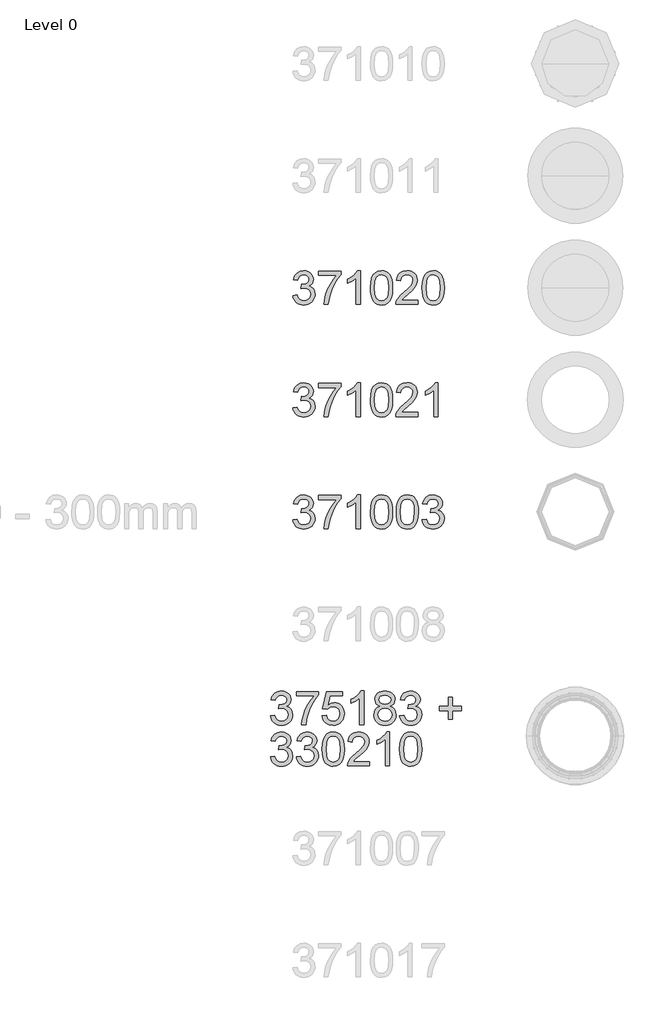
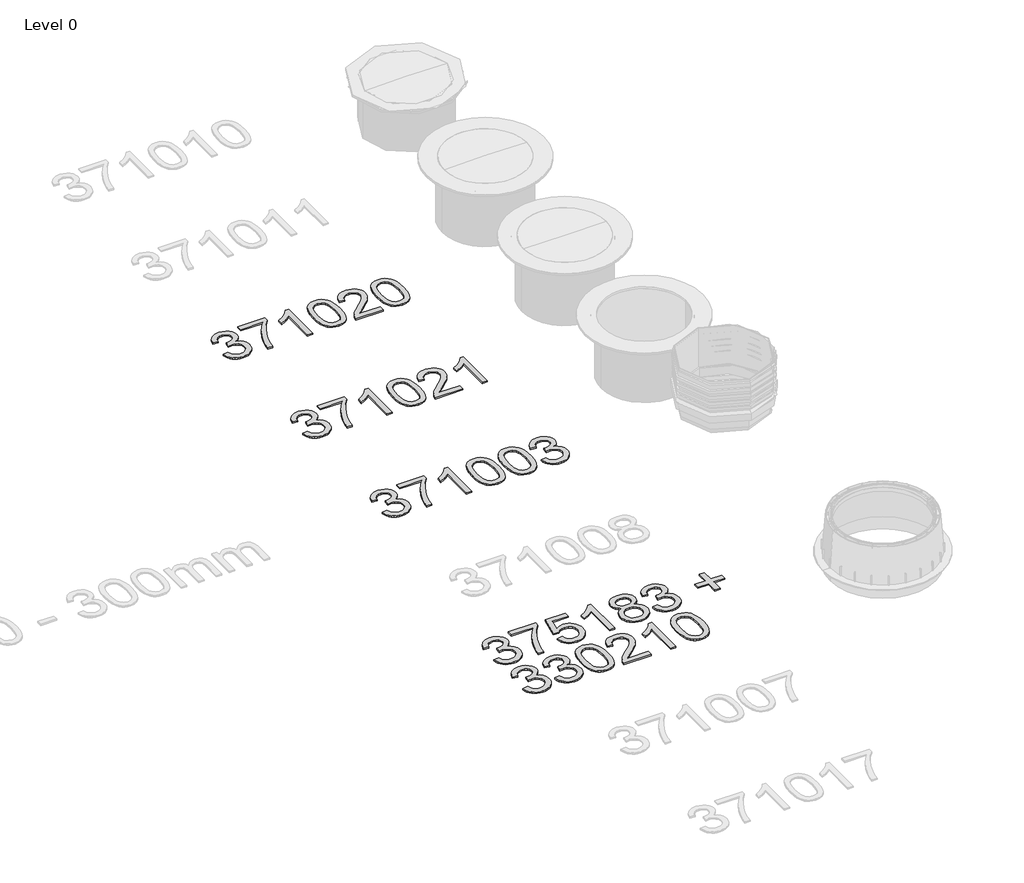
# One storey, part 10 of 20: 4 proxies.
"""IFC4 building model written with IfcOpenShell, lengths in millimetres."""

from ifc_helpers import new_model, si_unit, origin, origin_with_axes, place, context, project, spatial, polyline, outline, extrude, element, save

model = new_model("IFC4")

# Units and contexts
model_context = context("Model", 3, world=origin())
ifc_project = project(units=[si_unit("LENGTHUNIT", "METRE", prefix="MILLI")], contexts=[model_context])

# Site, building, storey
site = spatial("IfcSite", under=ifc_project)
building = spatial("IfcBuilding", under=site)
storey = spatial("IfcBuildingStorey", under=building, Name="Level 0", Elevation=0.0)

# Proxies
placement = place(None, origin())
element("IfcBuildingElementProxy", 1, Name="300mm Arial", ObjectType="300mm Arial", at=placement, inside=storey, context=model_context, shape_type="SweptSolid", body=[
    extrude(outline(polyline([(-6292.0538732, -11120.650521), (-6254.3827568, -11115.9416315), (-6245.9490621, -11139.6148379), (-6233.5974241, -11155.5993106), (-6216.7208376, -11164.7043899), (-6194.7122972, -11167.7394164), (-6168.8869812, -11163.5639558), (-6148.947777, -11151.0375738), (-6136.2006659, -11132.3491685), (-6131.9516289, -11109.6876376), (-6136.1638777, -11088.1757379), (-6148.8006242, -11070.7289343), (-6167.930488, -11059.1682426), (-6191.6220885, -11055.3146787), (-6218.0360157, -11059.434957), (-6213.842161, -11021.7638407), (-6207.8088963, -11022.2052991), (-6185.2393359, -11019.5013664), (-6165.0610084, -11011.3895685), (-6150.8239752, -10997.66757), (-6146.0782975, -10978.1330361), (-6149.5179941, -10961.8634549), (-6159.8370841, -10948.6656883), (-6175.5824335, -10939.9192938), (-6195.3009084, -10937.003829), (-6215.0561716, -10939.946885), (-6231.2061912, -10948.7760529), (-6242.9968091, -10963.4913327), (-6249.6738673, -10984.0927244), (-6287.3449836, -10979.3838349), (-6276.2533415, -10945.5570854), (-6256.5164724, -10920.3019864), (-6229.513934, -10904.5750312), (-6196.6252836, -10899.3327127), (-6172.9428802, -10901.9170837), (-6151.1918572, -10909.6701968), (-6132.8529397, -10921.9022731), (-6119.4068528, -10937.923534), (-6111.1570991, -10956.3820131), (-6108.4071812, -10975.9257441), (-6111.0191433, -10994.1359029), (-6118.8550298, -11010.6538045), (-6131.8044761, -11024.7252908), (-6149.7571174, -11035.5962037), (-6126.1758815, -11045.1243474), (-6108.7014868, -11061.3479434), (-6097.8857561, -11083.3840749), (-6094.2805125, -11110.3498252), (-6096.0831343, -11129.4612948), (-6101.4909997, -11147.0644483), (-6110.5041085, -11163.1592856), (-6123.122461, -11177.7458067), (-6138.4953298, -11189.8491243), (-6155.771988, -11198.4943512), (-6174.9524356, -11203.6814873), (-6196.0366724, -11205.4105327), (-6215.0929598, -11203.9344062), (-6232.4569899, -11199.5060267), (-6248.1287629, -11192.1253942), (-6262.1082787, -11181.7925086), (-6273.8299188, -11169.1143754), (-6282.7280646, -11154.6979997), (-6288.802716, -11138.5433816), (-6292.0538732, -11120.650521)])), origin_with_axes(), (0.0, 0.0, 1.0), 10.0),
    extrude(outline(polyline([(-6061.3182858, -10941.7127186), (-6061.3182858, -10904.0416023), (-5863.5449252, -10904.0416023), (-5863.5449252, -10934.5022315), (-5891.7338831, -10970.1775879), (-5919.6469294, -11015.546635), (-5944.267432, -11066.4707002), (-5962.5787583, -11118.811111), (-5971.555079, -11157.9721494), (-5976.5582741, -11200.7016432), (-6014.2293904, -11200.7016432), (-6010.1550973, -11161.8716986), (-5999.2565932, -11115.7209023), (-5981.8281837, -11066.801794), (-5958.1641743, -11019.6669133), (-5930.5362365, -10977.0569813), (-5901.2160415, -10941.7127186), (-6061.3182858, -10941.7127186)])), origin_with_axes(), (0.0, 0.0, 1.0), 10.0),
    extrude(outline(polyline([(-5689.3160123, -11200.7016432), (-5726.9871286, -11200.7016432), (-5726.9871286, -10965.8457775), (-5762.6716821, -10991.2664233), (-5802.3293612, -11010.2859225), (-5802.3293612, -10974.6749453), (-5772.7424517, -10958.580108), (-5747.1102737, -10939.4318502), (-5726.9043551, -10919.0695818), (-5713.5962239, -10899.3327127), (-5689.3160123, -10899.3327127), (-5689.3160123, -11200.7016432)])), origin_with_axes(), (0.0, 0.0, 1.0), 10.0),
    extrude(outline(polyline([(-5599.847111, -11052.4451991), (-5597.078799, -11004.2066725), (-5588.773863, -10965.7354129), (-5575.0150764, -10936.442809), (-5555.8852126, -10915.7402497), (-5531.246316, -10903.434597), (-5500.9604307, -10899.3327127), (-5477.7470768, -10901.7607339), (-5456.9617441, -10909.0447974), (-5439.5793198, -10920.8997947), (-5426.5746913, -10937.0406172), (-5416.752242, -10957.3293093), (-5408.9163555, -10981.627915), (-5403.7844017, -11012.4840174), (-5402.0737504, -11052.4451991), (-5404.8144713, -11100.4078142), (-5413.0366339, -11138.7871034), (-5426.7126471, -11168.1072984), (-5445.8149197, -11188.8926311), (-5470.5089986, -11201.2810573), (-5500.9604307, -11205.4105327), (-5521.7089753, -11203.617108), (-5540.103075, -11198.2368338), (-5556.14273, -11189.2697102), (-5569.8279402, -11176.7157371), (-5582.9613275, -11154.0220165), (-5592.3423183, -11125.7456867), (-5597.9709129, -11091.8867475), (-5599.847111, -11052.4451991)]), holes=[polyline([(-5562.1759947, -11052.3716227), (-5557.7614108, -11111.6282151), (-5552.2431809, -11131.8962138), (-5544.517659, -11145.9240141), (-5524.799184, -11162.2855658), (-5500.9604307, -11167.7394164), (-5477.1216774, -11162.2671717), (-5457.4032025, -11145.8504377), (-5449.6776806, -11131.7996447), (-5444.1594507, -11111.5362446), (-5439.7448667, -11052.3716227), (-5444.0122979, -10994.4486026), (-5449.3465868, -10974.2472825), (-5456.8145913, -10959.8860891), (-5476.496278, -10942.7243941), (-5501.4018891, -10937.003829), (-5524.983125, -10942.0438124), (-5543.9290478, -10957.1637624), (-5551.9120871, -10972.7987472), (-5557.614258, -10993.8783855), (-5562.1759947, -11052.3716227)])]), origin_with_axes(), (0.0, 0.0, 1.0), 10.0),
    extrude(outline(polyline([(-5176.0470526, -11163.0305269), (-5176.0470526, -11200.7016432), (-5373.8204132, -11200.7016432), (-5369.7737112, -11174.7291743), (-5360.4846909, -11154.4312852), (-5346.8914511, -11134.7404014), (-5327.2281585, -11114.1298127), (-5299.7289794, -11091.0728086), (-5259.0780189, -11054.9651908), (-5234.6874426, -11028.3121402), (-5222.4921545, -11006.6806789), (-5218.4270584, -10985.6378288), (-5222.2622282, -10966.7746795), (-5233.7677376, -10951.0937094), (-5251.4536645, -10940.5262991), (-5273.8300869, -10937.003829), (-5297.3285493, -10940.4435257), (-5315.5846934, -10950.7626156), (-5327.3661143, -10967.1517585), (-5331.4404073, -10988.801614), (-5369.1115237, -10984.0927244), (-5359.9788531, -10947.6540128), (-5351.4324945, -10933.1180755), (-5340.232787, -10921.0377504), (-5326.6372481, -10911.5417964), (-5310.903395, -10904.7589722), (-5273.0207465, -10899.3327127), (-5252.8309228, -10900.8410289), (-5234.8621866, -10905.3659774), (-5219.1145379, -10912.9075583), (-5205.5879768, -10923.4657716), (-5194.7239616, -10936.258868), (-5186.9639508, -10950.5050983), (-5182.3079443, -10966.2044624), (-5180.7559421, -10983.3569604), (-5182.4298052, -11001.3739811), (-5187.4513944, -11019.0783022), (-5196.3633358, -11037.0861258), (-5209.7082551, -11056.0136545), (-5230.9810315, -11078.610806), (-5263.6765438, -11107.6274984), (-5307.0130429, -11143.8638749), (-5324.009191, -11163.0305269), (-5176.0470526, -11163.0305269)])), origin_with_axes(), (0.0, 0.0, 1.0), 10.0),
    extrude(outline(polyline([(-5138.3759363, -11052.4451991), (-5135.6076243, -11004.2066725), (-5127.3026882, -10965.7354129), (-5113.5439016, -10936.442809), (-5094.4140379, -10915.7402497), (-5069.7751412, -10903.434597), (-5039.489256, -10899.3327127), (-5016.2759021, -10901.7607339), (-4995.4905694, -10909.0447974), (-4978.1081451, -10920.8997947), (-4965.1035166, -10937.0406172), (-4955.2810673, -10957.3293093), (-4947.4451808, -10981.627915), (-4942.313227, -11012.4840174), (-4940.6025757, -11052.4451991), (-4943.3432965, -11100.4078142), (-4951.5654591, -11138.7871034), (-4965.2414723, -11168.1072984), (-4984.3437449, -11188.8926311), (-5009.0378238, -11201.2810573), (-5039.489256, -11205.4105327), (-5060.2378005, -11203.617108), (-5078.6319003, -11198.2368338), (-5094.6715553, -11189.2697102), (-5108.3567655, -11176.7157371), (-5121.4901527, -11154.0220165), (-5130.8711436, -11125.7456867), (-5136.4997381, -11091.8867475), (-5138.3759363, -11052.4451991)]), holes=[polyline([(-5100.70482, -11052.3716227), (-5096.290236, -11111.6282151), (-5090.7720061, -11131.8962138), (-5083.0464842, -11145.9240141), (-5063.3280093, -11162.2855658), (-5039.489256, -11167.7394164), (-5015.6505027, -11162.2671717), (-4995.9320277, -11145.8504377), (-4988.2065058, -11131.7996447), (-4982.6882759, -11111.5362446), (-4978.273692, -11052.3716227), (-4982.5411231, -10994.4486026), (-4987.8754121, -10974.2472825), (-4995.3434166, -10959.8860891), (-5015.0251033, -10942.7243941), (-5039.9307144, -10937.003829), (-5063.5119503, -10942.0438124), (-5082.457873, -10957.1637624), (-5090.4409123, -10972.7987472), (-5096.1430832, -10993.8783855), (-5100.70482, -11052.3716227)])]), origin_with_axes(), (0.0, 0.0, 1.0), 10.0),
])
element("IfcBuildingElementProxy", 2, Name="300mm Arial", ObjectType="300mm Arial", at=placement, inside=storey, context=model_context, shape_type="SweptSolid", body=[
    extrude(outline(polyline([(-6292.0538732, -12120.650521), (-6254.3827568, -12115.9416315), (-6245.9490621, -12139.6148379), (-6233.5974241, -12155.5993106), (-6216.7208376, -12164.7043899), (-6194.7122972, -12167.7394164), (-6168.8869812, -12163.5639558), (-6148.947777, -12151.0375738), (-6136.2006659, -12132.3491685), (-6131.9516289, -12109.6876376), (-6136.1638777, -12088.1757379), (-6148.8006242, -12070.7289343), (-6167.930488, -12059.1682426), (-6191.6220885, -12055.3146787), (-6218.0360157, -12059.434957), (-6213.842161, -12021.7638407), (-6207.8088963, -12022.2052991), (-6185.2393359, -12019.5013664), (-6165.0610084, -12011.3895685), (-6150.8239752, -11997.66757), (-6146.0782975, -11978.1330361), (-6149.5179941, -11961.8634549), (-6159.8370841, -11948.6656883), (-6175.5824335, -11939.9192938), (-6195.3009084, -11937.003829), (-6215.0561716, -11939.946885), (-6231.2061912, -11948.7760529), (-6242.9968091, -11963.4913327), (-6249.6738673, -11984.0927244), (-6287.3449836, -11979.3838349), (-6276.2533415, -11945.5570854), (-6256.5164724, -11920.3019864), (-6229.513934, -11904.5750312), (-6196.6252836, -11899.3327127), (-6172.9428802, -11901.9170837), (-6151.1918572, -11909.6701968), (-6132.8529397, -11921.9022731), (-6119.4068528, -11937.923534), (-6111.1570991, -11956.3820131), (-6108.4071812, -11975.9257441), (-6111.0191433, -11994.1359029), (-6118.8550298, -12010.6538045), (-6131.8044761, -12024.7252908), (-6149.7571174, -12035.5962037), (-6126.1758815, -12045.1243474), (-6108.7014868, -12061.3479434), (-6097.8857561, -12083.3840749), (-6094.2805125, -12110.3498252), (-6096.0831343, -12129.4612948), (-6101.4909997, -12147.0644483), (-6110.5041085, -12163.1592856), (-6123.122461, -12177.7458067), (-6138.4953298, -12189.8491243), (-6155.771988, -12198.4943512), (-6174.9524356, -12203.6814873), (-6196.0366724, -12205.4105327), (-6215.0929598, -12203.9344062), (-6232.4569899, -12199.5060267), (-6248.1287629, -12192.1253942), (-6262.1082787, -12181.7925086), (-6273.8299188, -12169.1143754), (-6282.7280646, -12154.6979997), (-6288.802716, -12138.5433816), (-6292.0538732, -12120.650521)])), origin_with_axes(), (0.0, 0.0, 1.0), 10.0),
    extrude(outline(polyline([(-6061.3182858, -11941.7127186), (-6061.3182858, -11904.0416023), (-5863.5449252, -11904.0416023), (-5863.5449252, -11934.5022315), (-5891.7338831, -11970.1775879), (-5919.6469294, -12015.546635), (-5944.267432, -12066.4707002), (-5962.5787583, -12118.811111), (-5971.555079, -12157.9721494), (-5976.5582741, -12200.7016432), (-6014.2293904, -12200.7016432), (-6010.1550973, -12161.8716986), (-5999.2565932, -12115.7209023), (-5981.8281837, -12066.801794), (-5958.1641743, -12019.6669133), (-5930.5362365, -11977.0569813), (-5901.2160415, -11941.7127186), (-6061.3182858, -11941.7127186)])), origin_with_axes(), (0.0, 0.0, 1.0), 10.0),
    extrude(outline(polyline([(-5689.3160123, -12200.7016432), (-5726.9871286, -12200.7016432), (-5726.9871286, -11965.8457775), (-5762.6716821, -11991.2664233), (-5802.3293612, -12010.2859225), (-5802.3293612, -11974.6749453), (-5772.7424517, -11958.580108), (-5747.1102737, -11939.4318502), (-5726.9043551, -11919.0695818), (-5713.5962239, -11899.3327127), (-5689.3160123, -11899.3327127), (-5689.3160123, -12200.7016432)])), origin_with_axes(), (0.0, 0.0, 1.0), 10.0),
    extrude(outline(polyline([(-5599.847111, -12052.4451991), (-5597.078799, -12004.2066725), (-5588.773863, -11965.7354129), (-5575.0150764, -11936.442809), (-5555.8852126, -11915.7402497), (-5531.246316, -11903.434597), (-5500.9604307, -11899.3327127), (-5477.7470768, -11901.7607339), (-5456.9617441, -11909.0447974), (-5439.5793198, -11920.8997947), (-5426.5746913, -11937.0406172), (-5416.752242, -11957.3293093), (-5408.9163555, -11981.627915), (-5403.7844017, -12012.4840174), (-5402.0737504, -12052.4451991), (-5404.8144713, -12100.4078142), (-5413.0366339, -12138.7871034), (-5426.7126471, -12168.1072984), (-5445.8149197, -12188.8926311), (-5470.5089986, -12201.2810573), (-5500.9604307, -12205.4105327), (-5521.7089753, -12203.617108), (-5540.103075, -12198.2368338), (-5556.14273, -12189.2697102), (-5569.8279402, -12176.7157371), (-5582.9613275, -12154.0220165), (-5592.3423183, -12125.7456867), (-5597.9709129, -12091.8867475), (-5599.847111, -12052.4451991)]), holes=[polyline([(-5562.1759947, -12052.3716227), (-5557.7614108, -12111.6282151), (-5552.2431809, -12131.8962138), (-5544.517659, -12145.9240141), (-5524.799184, -12162.2855658), (-5500.9604307, -12167.7394164), (-5477.1216774, -12162.2671717), (-5457.4032025, -12145.8504377), (-5449.6776806, -12131.7996447), (-5444.1594507, -12111.5362446), (-5439.7448667, -12052.3716227), (-5444.0122979, -11994.4486026), (-5449.3465868, -11974.2472825), (-5456.8145913, -11959.8860891), (-5476.496278, -11942.7243941), (-5501.4018891, -11937.003829), (-5524.983125, -11942.0438124), (-5543.9290478, -11957.1637624), (-5551.9120871, -11972.7987472), (-5557.614258, -11993.8783855), (-5562.1759947, -12052.3716227)])]), origin_with_axes(), (0.0, 0.0, 1.0), 10.0),
    extrude(outline(polyline([(-5176.0470526, -12163.0305269), (-5176.0470526, -12200.7016432), (-5373.8204132, -12200.7016432), (-5369.7737112, -12174.7291743), (-5360.4846909, -12154.4312852), (-5346.8914511, -12134.7404014), (-5327.2281585, -12114.1298127), (-5299.7289794, -12091.0728086), (-5259.0780189, -12054.9651908), (-5234.6874426, -12028.3121402), (-5222.4921545, -12006.6806789), (-5218.4270584, -11985.6378288), (-5222.2622282, -11966.7746795), (-5233.7677376, -11951.0937094), (-5251.4536645, -11940.5262991), (-5273.8300869, -11937.003829), (-5297.3285493, -11940.4435257), (-5315.5846934, -11950.7626156), (-5327.3661143, -11967.1517585), (-5331.4404073, -11988.801614), (-5369.1115237, -11984.0927244), (-5359.9788531, -11947.6540128), (-5351.4324945, -11933.1180755), (-5340.232787, -11921.0377504), (-5326.6372481, -11911.5417964), (-5310.903395, -11904.7589722), (-5273.0207465, -11899.3327127), (-5252.8309228, -11900.8410289), (-5234.8621866, -11905.3659774), (-5219.1145379, -11912.9075583), (-5205.5879768, -11923.4657716), (-5194.7239616, -11936.258868), (-5186.9639508, -11950.5050983), (-5182.3079443, -11966.2044624), (-5180.7559421, -11983.3569604), (-5182.4298052, -12001.3739811), (-5187.4513944, -12019.0783022), (-5196.3633358, -12037.0861258), (-5209.7082551, -12056.0136545), (-5230.9810315, -12078.610806), (-5263.6765438, -12107.6274984), (-5307.0130429, -12143.8638749), (-5324.009191, -12163.0305269), (-5176.0470526, -12163.0305269)])), origin_with_axes(), (0.0, 0.0, 1.0), 10.0),
    extrude(outline(polyline([(-4997.1092501, -12200.7016432), (-5034.7803664, -12200.7016432), (-5034.7803664, -11965.8457775), (-5070.46492, -11991.2664233), (-5110.1225991, -12010.2859225), (-5110.1225991, -11974.6749453), (-5080.5356896, -11958.580108), (-5054.9035116, -11939.4318502), (-5034.697593, -11919.0695818), (-5021.3894618, -11899.3327127), (-4997.1092501, -11899.3327127), (-4997.1092501, -12200.7016432)])), origin_with_axes(), (0.0, 0.0, 1.0), 10.0),
])
element("IfcBuildingElementProxy", 3, Name="300mm Arial", ObjectType="300mm Arial", at=placement, inside=storey, context=model_context, shape_type="SweptSolid", body=[
    extrude(outline(polyline([(-6292.0538732, -13120.650521), (-6254.3827568, -13115.9416315), (-6245.9490621, -13139.6148379), (-6233.5974241, -13155.5993106), (-6216.7208376, -13164.7043899), (-6194.7122972, -13167.7394164), (-6168.8869812, -13163.5639558), (-6148.947777, -13151.0375738), (-6136.2006659, -13132.3491685), (-6131.9516289, -13109.6876376), (-6136.1638777, -13088.1757379), (-6148.8006242, -13070.7289343), (-6167.930488, -13059.1682426), (-6191.6220885, -13055.3146787), (-6218.0360157, -13059.434957), (-6213.842161, -13021.7638407), (-6207.8088963, -13022.2052991), (-6185.2393359, -13019.5013664), (-6165.0610084, -13011.3895685), (-6150.8239752, -12997.66757), (-6146.0782975, -12978.1330361), (-6149.5179941, -12961.8634549), (-6159.8370841, -12948.6656883), (-6175.5824335, -12939.9192938), (-6195.3009084, -12937.003829), (-6215.0561716, -12939.946885), (-6231.2061912, -12948.7760529), (-6242.9968091, -12963.4913327), (-6249.6738673, -12984.0927244), (-6287.3449836, -12979.3838349), (-6276.2533415, -12945.5570854), (-6256.5164724, -12920.3019864), (-6229.513934, -12904.5750312), (-6196.6252836, -12899.3327127), (-6172.9428802, -12901.9170837), (-6151.1918572, -12909.6701968), (-6132.8529397, -12921.9022731), (-6119.4068528, -12937.923534), (-6111.1570991, -12956.3820131), (-6108.4071812, -12975.9257441), (-6111.0191433, -12994.1359029), (-6118.8550298, -13010.6538045), (-6131.8044761, -13024.7252908), (-6149.7571174, -13035.5962037), (-6126.1758815, -13045.1243474), (-6108.7014868, -13061.3479434), (-6097.8857561, -13083.3840749), (-6094.2805125, -13110.3498252), (-6096.0831343, -13129.4612948), (-6101.4909997, -13147.0644483), (-6110.5041085, -13163.1592856), (-6123.122461, -13177.7458067), (-6138.4953298, -13189.8491243), (-6155.771988, -13198.4943512), (-6174.9524356, -13203.6814873), (-6196.0366724, -13205.4105327), (-6215.0929598, -13203.9344062), (-6232.4569899, -13199.5060267), (-6248.1287629, -13192.1253942), (-6262.1082787, -13181.7925086), (-6273.8299188, -13169.1143754), (-6282.7280646, -13154.6979997), (-6288.802716, -13138.5433816), (-6292.0538732, -13120.650521)])), origin_with_axes(), (0.0, 0.0, 1.0), 10.0),
    extrude(outline(polyline([(-6061.3182858, -12941.7127186), (-6061.3182858, -12904.0416023), (-5863.5449252, -12904.0416023), (-5863.5449252, -12934.5022315), (-5891.7338831, -12970.1775879), (-5919.6469294, -13015.546635), (-5944.267432, -13066.4707002), (-5962.5787583, -13118.811111), (-5971.555079, -13157.9721494), (-5976.5582741, -13200.7016432), (-6014.2293904, -13200.7016432), (-6010.1550973, -13161.8716986), (-5999.2565932, -13115.7209023), (-5981.8281837, -13066.801794), (-5958.1641743, -13019.6669133), (-5930.5362365, -12977.0569813), (-5901.2160415, -12941.7127186), (-6061.3182858, -12941.7127186)])), origin_with_axes(), (0.0, 0.0, 1.0), 10.0),
    extrude(outline(polyline([(-5689.3160123, -13200.7016432), (-5726.9871286, -13200.7016432), (-5726.9871286, -12965.8457775), (-5762.6716821, -12991.2664233), (-5802.3293612, -13010.2859225), (-5802.3293612, -12974.6749453), (-5772.7424517, -12958.580108), (-5747.1102737, -12939.4318502), (-5726.9043551, -12919.0695818), (-5713.5962239, -12899.3327127), (-5689.3160123, -12899.3327127), (-5689.3160123, -13200.7016432)])), origin_with_axes(), (0.0, 0.0, 1.0), 10.0),
    extrude(outline(polyline([(-5599.847111, -13052.4451991), (-5597.078799, -13004.2066725), (-5588.773863, -12965.7354129), (-5575.0150764, -12936.442809), (-5555.8852126, -12915.7402497), (-5531.246316, -12903.434597), (-5500.9604307, -12899.3327127), (-5477.7470768, -12901.7607339), (-5456.9617441, -12909.0447974), (-5439.5793198, -12920.8997947), (-5426.5746913, -12937.0406172), (-5416.752242, -12957.3293093), (-5408.9163555, -12981.627915), (-5403.7844017, -13012.4840174), (-5402.0737504, -13052.4451991), (-5404.8144713, -13100.4078142), (-5413.0366339, -13138.7871034), (-5426.7126471, -13168.1072984), (-5445.8149197, -13188.8926311), (-5470.5089986, -13201.2810573), (-5500.9604307, -13205.4105327), (-5521.7089753, -13203.617108), (-5540.103075, -13198.2368338), (-5556.14273, -13189.2697102), (-5569.8279402, -13176.7157371), (-5582.9613275, -13154.0220165), (-5592.3423183, -13125.7456867), (-5597.9709129, -13091.8867475), (-5599.847111, -13052.4451991)]), holes=[polyline([(-5562.1759947, -13052.3716227), (-5557.7614108, -13111.6282151), (-5552.2431809, -13131.8962138), (-5544.517659, -13145.9240141), (-5524.799184, -13162.2855658), (-5500.9604307, -13167.7394164), (-5477.1216774, -13162.2671717), (-5457.4032025, -13145.8504377), (-5449.6776806, -13131.7996447), (-5444.1594507, -13111.5362446), (-5439.7448667, -13052.3716227), (-5444.0122979, -12994.4486026), (-5449.3465868, -12974.2472825), (-5456.8145913, -12959.8860891), (-5476.496278, -12942.7243941), (-5501.4018891, -12937.003829), (-5524.983125, -12942.0438124), (-5543.9290478, -12957.1637624), (-5551.9120871, -12972.7987472), (-5557.614258, -12993.8783855), (-5562.1759947, -13052.3716227)])]), origin_with_axes(), (0.0, 0.0, 1.0), 10.0),
    extrude(outline(polyline([(-5369.1115237, -13052.4451991), (-5366.3432116, -13004.2066725), (-5358.0382756, -12965.7354129), (-5344.279489, -12936.442809), (-5325.1496252, -12915.7402497), (-5300.5107286, -12903.434597), (-5270.2248434, -12899.3327127), (-5247.0114895, -12901.7607339), (-5226.2261567, -12909.0447974), (-5208.8437325, -12920.8997947), (-5195.8391039, -12937.0406172), (-5186.0166547, -12957.3293093), (-5178.1807682, -12981.627915), (-5173.0488143, -13012.4840174), (-5171.338163, -13052.4451991), (-5174.0788839, -13100.4078142), (-5182.3010465, -13138.7871034), (-5195.9770597, -13168.1072984), (-5215.0793323, -13188.8926311), (-5239.7734112, -13201.2810573), (-5270.2248434, -13205.4105327), (-5290.9733879, -13203.617108), (-5309.3674876, -13198.2368338), (-5325.4071426, -13189.2697102), (-5339.0923528, -13176.7157371), (-5352.2257401, -13154.0220165), (-5361.606731, -13125.7456867), (-5367.2353255, -13091.8867475), (-5369.1115237, -13052.4451991)]), holes=[polyline([(-5331.4404073, -13052.3716227), (-5327.0258234, -13111.6282151), (-5321.5075935, -13131.8962138), (-5313.7820716, -13145.9240141), (-5294.0635966, -13162.2855658), (-5270.2248434, -13167.7394164), (-5246.3860901, -13162.2671717), (-5226.6676151, -13145.8504377), (-5218.9420932, -13131.7996447), (-5213.4238633, -13111.5362446), (-5209.0092794, -13052.3716227), (-5213.2767105, -12994.4486026), (-5218.6109994, -12974.2472825), (-5226.0790039, -12959.8860891), (-5245.7606907, -12942.7243941), (-5270.6663017, -12937.003829), (-5294.2475376, -12942.0438124), (-5313.1934604, -12957.1637624), (-5321.1764997, -12972.7987472), (-5326.8786706, -12993.8783855), (-5331.4404073, -13052.3716227)])]), origin_with_axes(), (0.0, 0.0, 1.0), 10.0),
    extrude(outline(polyline([(-5138.3759363, -13120.650521), (-5100.70482, -13115.9416315), (-5092.2711252, -13139.6148379), (-5079.9194872, -13155.5993106), (-5063.0429007, -13164.7043899), (-5041.0343604, -13167.7394164), (-5015.2090443, -13163.5639558), (-4995.2698402, -13151.0375738), (-4982.522729, -13132.3491685), (-4978.273692, -13109.6876376), (-4982.4859408, -13088.1757379), (-4995.1226874, -13070.7289343), (-5014.2525511, -13059.1682426), (-5037.9441516, -13055.3146787), (-5064.3580789, -13059.434957), (-5060.1642241, -13021.7638407), (-5054.1309594, -13022.2052991), (-5031.561399, -13019.5013664), (-5011.3830715, -13011.3895685), (-4997.1460383, -12997.66757), (-4992.4003606, -12978.1330361), (-4995.8400572, -12961.8634549), (-5006.1591472, -12948.6656883), (-5021.9044966, -12939.9192938), (-5041.6229715, -12937.003829), (-5061.3782347, -12939.946885), (-5077.5282543, -12948.7760529), (-5089.3188722, -12963.4913327), (-5095.9959304, -12984.0927244), (-5133.6670467, -12979.3838349), (-5122.5754046, -12945.5570854), (-5102.8385355, -12920.3019864), (-5075.8359971, -12904.5750312), (-5042.9473467, -12899.3327127), (-5019.2649433, -12901.9170837), (-4997.5139203, -12909.6701968), (-4979.1750029, -12921.9022731), (-4965.7289159, -12937.923534), (-4957.4791622, -12956.3820131), (-4954.7292443, -12975.9257441), (-4957.3412065, -12994.1359029), (-4965.177093, -13010.6538045), (-4978.1265392, -13024.7252908), (-4996.0791805, -13035.5962037), (-4972.4979447, -13045.1243474), (-4955.0235499, -13061.3479434), (-4944.2078192, -13083.3840749), (-4940.6025757, -13110.3498252), (-4942.4051975, -13129.4612948), (-4947.8130628, -13147.0644483), (-4956.8261717, -13163.1592856), (-4969.4445241, -13177.7458067), (-4984.817393, -13189.8491243), (-5002.0940512, -13198.4943512), (-5021.2744987, -13203.6814873), (-5042.3587355, -13205.4105327), (-5061.4150229, -13203.9344062), (-5078.7790531, -13199.5060267), (-5094.4508261, -13192.1253942), (-5108.4303419, -13181.7925086), (-5120.1519819, -13169.1143754), (-5129.0501277, -13154.6979997), (-5135.1247791, -13138.5433816), (-5138.3759363, -13120.650521)])), origin_with_axes(), (0.0, 0.0, 1.0), 10.0),
])
element("IfcBuildingElementProxy", 4, Name="300mm Arial", ObjectType="300mm Arial", at=placement, inside=storey, context=model_context, shape_type="SweptSolid", body=[
    extrude(outline(polyline([(-6492.0538732, -14870.650521), (-6454.3827568, -14865.9416315), (-6445.9490621, -14889.6148379), (-6433.5974241, -14905.5993106), (-6416.7208376, -14914.7043899), (-6394.7122972, -14917.7394164), (-6368.8869812, -14913.5639558), (-6348.947777, -14901.0375738), (-6336.2006659, -14882.3491685), (-6331.9516289, -14859.6876376), (-6336.1638777, -14838.1757379), (-6348.8006242, -14820.7289343), (-6367.930488, -14809.1682426), (-6391.6220885, -14805.3146787), (-6418.0360157, -14809.434957), (-6413.842161, -14771.7638407), (-6407.8088963, -14772.2052991), (-6385.2393359, -14769.5013664), (-6365.0610084, -14761.3895685), (-6350.8239752, -14747.66757), (-6346.0782975, -14728.1330361), (-6349.5179941, -14711.8634549), (-6359.8370841, -14698.6656883), (-6375.5824335, -14689.9192938), (-6395.3009084, -14687.003829), (-6415.0561716, -14689.946885), (-6431.2061912, -14698.7760529), (-6442.9968091, -14713.4913327), (-6449.6738673, -14734.0927244), (-6487.3449836, -14729.3838349), (-6476.2533415, -14695.5570854), (-6456.5164724, -14670.3019864), (-6429.513934, -14654.5750312), (-6396.6252836, -14649.3327127), (-6372.9428802, -14651.9170837), (-6351.1918572, -14659.6701968), (-6332.8529397, -14671.9022731), (-6319.4068528, -14687.923534), (-6311.1570991, -14706.3820131), (-6308.4071812, -14725.9257441), (-6311.0191433, -14744.1359029), (-6318.8550298, -14760.6538045), (-6331.8044761, -14774.7252908), (-6349.7571174, -14785.5962037), (-6326.1758815, -14795.1243474), (-6308.7014868, -14811.3479434), (-6297.8857561, -14833.3840749), (-6294.2805125, -14860.3498252), (-6296.0831343, -14879.4612948), (-6301.4909997, -14897.0644483), (-6310.5041085, -14913.1592856), (-6323.122461, -14927.7458067), (-6338.4953298, -14939.8491243), (-6355.771988, -14948.4943512), (-6374.9524356, -14953.6814873), (-6396.0366724, -14955.4105327), (-6415.0929598, -14953.9344062), (-6432.4569899, -14949.5060267), (-6448.1287629, -14942.1253942), (-6462.1082787, -14931.7925086), (-6473.8299188, -14919.1143754), (-6482.7280646, -14904.6979997), (-6488.802716, -14888.5433816), (-6492.0538732, -14870.650521)])), origin_with_axes(), (0.0, 0.0, 1.0), 10.0),
    extrude(outline(polyline([(-6261.3182858, -14691.7127186), (-6261.3182858, -14654.0416023), (-6063.5449252, -14654.0416023), (-6063.5449252, -14684.5022315), (-6091.7338831, -14720.1775879), (-6119.6469294, -14765.546635), (-6144.267432, -14816.4707002), (-6162.5787583, -14868.811111), (-6171.555079, -14907.9721494), (-6176.5582741, -14950.7016432), (-6214.2293904, -14950.7016432), (-6210.1550973, -14911.8716986), (-6199.2565932, -14865.7209023), (-6181.8281837, -14816.801794), (-6158.1641743, -14769.6669133), (-6130.5362365, -14727.0569813), (-6101.2160415, -14691.7127186), (-6261.3182858, -14691.7127186)])), origin_with_axes(), (0.0, 0.0, 1.0), 10.0),
    extrude(outline(polyline([(-6030.5826984, -14870.650521), (-5992.9115821, -14865.9416315), (-5985.9954006, -14888.5571771), (-5973.9288711, -14904.753182), (-5956.7671761, -14914.4928578), (-5934.5654977, -14917.7394164), (-5907.5629592, -14913.2236649), (-5887.3294495, -14899.6764104), (-5874.6927029, -14878.6611515), (-5870.4804541, -14851.7413865), (-5874.4259885, -14826.394317), (-5886.2625917, -14807.0069359), (-5906.0822342, -14794.7012831), (-5933.9768865, -14790.5993989), (-5952.2514246, -14792.2364738), (-5967.0494778, -14797.1476984), (-5988.2026926, -14814.1438466), (-6025.8738089, -14809.434957), (-5992.9115821, -14654.0416023), (-5846.9360064, -14654.0416023), (-5846.9360064, -14691.7127186), (-5962.4509529, -14691.7127186), (-5978.5641843, -14774.7068967), (-5951.6536163, -14758.3729361), (-5923.4554614, -14752.9282826), (-5905.1096462, -14754.6159412), (-5888.2583515, -14759.6789172), (-5872.9015775, -14768.1172104), (-5859.0393241, -14779.930821), (-5847.5637051, -14794.3977805), (-5839.3668344, -14810.7961204), (-5834.4487119, -14829.1258408), (-5832.8093378, -14849.3869417), (-5838.7138438, -14887.058058), (-5846.0944763, -14903.8518711), (-5856.4273619, -14919.2845208), (-5872.0807408, -14935.089651), (-5890.3460818, -14946.3790297), (-5911.2233851, -14953.152657), (-5934.7126505, -14955.4105327), (-5971.7123821, -14949.6071942), (-5987.3910529, -14942.3530211), (-6001.188927, -14932.1971788), (-6012.6691445, -14919.645505), (-6021.3948456, -14905.2038374), (-6030.5826984, -14870.650521)])), origin_with_axes(), (0.0, 0.0, 1.0), 10.0),
    extrude(outline(polyline([(-5658.5804249, -14950.7016432), (-5696.2515412, -14950.7016432), (-5696.2515412, -14715.8457775), (-5731.9360947, -14741.2664233), (-5771.5937738, -14760.2859225), (-5771.5937738, -14724.6749453), (-5742.0068643, -14708.580108), (-5716.3746863, -14689.4318502), (-5696.1687677, -14669.0695818), (-5682.8606366, -14649.3327127), (-5658.5804249, -14649.3327127), (-5658.5804249, -14950.7016432)])), origin_with_axes(), (0.0, 0.0, 1.0), 10.0),
    extrude(outline(polyline([(-5514.22353, -14784.7132869), (-5534.3926604, -14774.7804731), (-5548.5469201, -14761.3159921), (-5556.9070385, -14744.5957554), (-5559.6937446, -14724.8956745), (-5558.1762313, -14709.5320027), (-5553.6236917, -14695.4467208), (-5546.0361255, -14682.6398289), (-5535.4135329, -14671.1113268), (-5522.2663501, -14661.5831832), (-5507.1050134, -14654.7773663), (-5470.7398781, -14649.3327127), (-5434.1540137, -14654.906125), (-5418.8271301, -14661.8728902), (-5405.4776122, -14671.6263616), (-5394.6618815, -14683.3801914), (-5386.9363596, -14696.3480317), (-5382.3010465, -14710.5298826), (-5380.7559421, -14725.9257441), (-5383.50586, -14744.9912285), (-5391.7556138, -14761.4263567), (-5405.5971738, -14774.8080642), (-5425.1225107, -14784.7132869), (-5401.936748, -14796.6602547), (-5385.0601615, -14814.2542112), (-5374.7686627, -14836.6490276), (-5371.338163, -14862.9985755), (-5373.0396173, -14881.7881484), (-5378.14398, -14899.0142229), (-5386.6512511, -14914.6767988), (-5398.5614307, -14928.7758763), (-5413.2491193, -14940.4285385), (-5430.0889177, -14948.7518686), (-5449.0808257, -14953.7458667), (-5470.2248434, -14955.4105327), (-5491.368861, -14953.7389689), (-5510.360769, -14948.7242774), (-5527.2005674, -14940.3664584), (-5541.888256, -14928.6655117), (-5553.7984356, -14914.4675659), (-5562.3057067, -14898.6187497), (-5567.4100694, -14881.119063), (-5569.1115237, -14861.9685059), (-5565.5430683, -14834.5980855), (-5554.8377022, -14812.0837074), (-5537.5472485, -14795.1979238), (-5514.22353, -14784.7132869)]), holes=[polyline([(-5522.0226283, -14725.9993205), (-5518.6840992, -14742.4436457), (-5508.6685118, -14755.5770329), (-5492.2701719, -14764.1854716), (-5469.783385, -14767.0549512), (-5447.8208298, -14764.2038657), (-5431.6708103, -14755.6506093), (-5421.7379964, -14742.9586805), (-5418.4270584, -14727.6915777), (-5421.848361, -14711.8450608), (-5432.1122687, -14698.7392647), (-5448.4830174, -14689.9376879), (-5470.2248434, -14687.003829), (-5492.104625, -14689.8733086), (-5508.4477827, -14698.4817473), (-5518.6289169, -14711.1000997), (-5522.0226283, -14725.9993205)]), polyline([(-5531.4404073, -14860.6441308), (-5525.1496252, -14889.0078326), (-5516.440019, -14901.1755296), (-5502.8927645, -14910.2346237), (-5486.6691685, -14915.8632182), (-5469.9305378, -14917.7394164), (-5444.2891627, -14913.793882), (-5425.0489343, -14901.9572788), (-5413.0191931, -14884.0322286), (-5409.0092794, -14861.8213531), (-5413.1479518, -14839.2333986), (-5425.5639691, -14820.9128753), (-5445.2456559, -14808.7727694), (-5471.1813365, -14804.7260675), (-5496.4640267, -14808.7175871), (-5515.511117, -14820.6921461), (-5527.4580848, -14838.6631815), (-5531.4404073, -14860.6441308)])]), origin_with_axes(), (0.0, 0.0, 1.0), 10.0),
    extrude(outline(polyline([(-5338.3759363, -14870.650521), (-5300.70482, -14865.9416315), (-5292.2711252, -14889.6148379), (-5279.9194872, -14905.5993106), (-5263.0429007, -14914.7043899), (-5241.0343604, -14917.7394164), (-5215.2090443, -14913.5639558), (-5195.2698402, -14901.0375738), (-5182.522729, -14882.3491685), (-5178.273692, -14859.6876376), (-5182.4859408, -14838.1757379), (-5195.1226874, -14820.7289343), (-5214.2525511, -14809.1682426), (-5237.9441516, -14805.3146787), (-5264.3580789, -14809.434957), (-5260.1642241, -14771.7638407), (-5254.1309594, -14772.2052991), (-5231.561399, -14769.5013664), (-5211.3830715, -14761.3895685), (-5197.1460383, -14747.66757), (-5192.4003606, -14728.1330361), (-5195.8400572, -14711.8634549), (-5206.1591472, -14698.6656883), (-5221.9044966, -14689.9192938), (-5241.6229715, -14687.003829), (-5261.3782347, -14689.946885), (-5277.5282543, -14698.7760529), (-5289.3188722, -14713.4913327), (-5295.9959304, -14734.0927244), (-5333.6670467, -14729.3838349), (-5322.5754046, -14695.5570854), (-5302.8385355, -14670.3019864), (-5275.8359971, -14654.5750312), (-5242.9473467, -14649.3327127), (-5219.2649433, -14651.9170837), (-5197.5139203, -14659.6701968), (-5179.1750029, -14671.9022731), (-5165.7289159, -14687.923534), (-5157.4791622, -14706.3820131), (-5154.7292443, -14725.9257441), (-5157.3412065, -14744.1359029), (-5165.177093, -14760.6538045), (-5178.1265392, -14774.7252908), (-5196.0791805, -14785.5962037), (-5172.4979447, -14795.1243474), (-5155.0235499, -14811.3479434), (-5144.2078192, -14833.3840749), (-5140.6025757, -14860.3498252), (-5142.4051975, -14879.4612948), (-5147.8130628, -14897.0644483), (-5156.8261717, -14913.1592856), (-5169.4445241, -14927.7458067), (-5184.817393, -14939.8491243), (-5202.0940512, -14948.4943512), (-5221.2744987, -14953.6814873), (-5242.3587355, -14955.4105327), (-5261.4150229, -14953.9344062), (-5278.7790531, -14949.5060267), (-5294.4508261, -14942.1253942), (-5308.4303419, -14931.7925086), (-5320.1519819, -14919.1143754), (-5329.0501277, -14904.6979997), (-5335.1247791, -14888.5433816), (-5338.3759363, -14870.650521)])), origin_with_axes(), (0.0, 0.0, 1.0), 10.0),
    extrude(outline(polyline([(-4905.1580988, -14903.6127478), (-4905.1580988, -14823.5616256), (-4985.2092209, -14823.5616256), (-4985.2092209, -14785.8905093), (-4905.1580988, -14785.8905093), (-4905.1580988, -14705.8393872), (-4867.4869825, -14705.8393872), (-4867.4869825, -14785.8905093), (-4787.4358603, -14785.8905093), (-4787.4358603, -14823.5616256), (-4867.4869825, -14823.5616256), (-4867.4869825, -14903.6127478), (-4905.1580988, -14903.6127478)])), origin_with_axes(), (0.0, 0.0, 1.0), 10.0),
    extrude(outline(polyline([(-6492.0538732, -15236.5749746), (-6454.3827568, -15231.866085), (-6445.9490621, -15255.5392914), (-6433.5974241, -15271.5237641), (-6416.7208376, -15280.6288435), (-6394.7122972, -15283.6638699), (-6368.8869812, -15279.4884093), (-6348.947777, -15266.9620274), (-6336.2006659, -15248.273622), (-6331.9516289, -15225.6120911), (-6336.1638777, -15204.1001914), (-6348.8006242, -15186.6533878), (-6367.930488, -15175.0926961), (-6391.6220885, -15171.2391322), (-6418.0360157, -15175.3594106), (-6413.842161, -15137.6882943), (-6407.8088963, -15138.1297526), (-6385.2393359, -15135.42582), (-6365.0610084, -15127.314022), (-6350.8239752, -15113.5920236), (-6346.0782975, -15094.0574896), (-6349.5179941, -15077.7879084), (-6359.8370841, -15064.5901418), (-6375.5824335, -15055.8437474), (-6395.3009084, -15052.9282826), (-6415.0561716, -15055.8713385), (-6431.2061912, -15064.7005064), (-6442.9968091, -15079.4157862), (-6449.6738673, -15100.0171779), (-6487.3449836, -15095.3082884), (-6476.2533415, -15061.481539), (-6456.5164724, -15036.22644), (-6429.513934, -15020.4994847), (-6396.6252836, -15015.2571663), (-6372.9428802, -15017.8415373), (-6351.1918572, -15025.5946503), (-6332.8529397, -15037.8267267), (-6319.4068528, -15053.8479876), (-6311.1570991, -15072.3064667), (-6308.4071812, -15091.8501977), (-6311.0191433, -15110.0603564), (-6318.8550298, -15126.578258), (-6331.8044761, -15140.6497443), (-6349.7571174, -15151.5206573), (-6326.1758815, -15161.0488009), (-6308.7014868, -15177.2723969), (-6297.8857561, -15199.3085284), (-6294.2805125, -15226.2742787), (-6296.0831343, -15245.3857483), (-6301.4909997, -15262.9889018), (-6310.5041085, -15279.0837391), (-6323.122461, -15293.6702602), (-6338.4953298, -15305.7735779), (-6355.771988, -15314.4188047), (-6374.9524356, -15319.6059409), (-6396.0366724, -15321.3349862), (-6415.0929598, -15319.8588597), (-6432.4569899, -15315.4304802), (-6448.1287629, -15308.0498477), (-6462.1082787, -15297.7169622), (-6473.8299188, -15285.0388289), (-6482.7280646, -15270.6224532), (-6488.802716, -15254.4678351), (-6492.0538732, -15236.5749746)])), origin_with_axes(), (0.0, 0.0, 1.0), 10.0),
    extrude(outline(polyline([(-6261.3182858, -15236.5749746), (-6223.6471695, -15231.866085), (-6215.2134747, -15255.5392914), (-6202.8618367, -15271.5237641), (-6185.9852502, -15280.6288435), (-6163.9767099, -15283.6638699), (-6138.1513938, -15279.4884093), (-6118.2121897, -15266.9620274), (-6105.4650785, -15248.273622), (-6101.2160415, -15225.6120911), (-6105.4282903, -15204.1001914), (-6118.0650369, -15186.6533878), (-6137.1949006, -15175.0926961), (-6160.8865011, -15171.2391322), (-6187.3004284, -15175.3594106), (-6183.1065736, -15137.6882943), (-6177.0733089, -15138.1297526), (-6154.5037485, -15135.42582), (-6134.325421, -15127.314022), (-6120.0883878, -15113.5920236), (-6115.3427101, -15094.0574896), (-6118.7824067, -15077.7879084), (-6129.1014967, -15064.5901418), (-6144.8468461, -15055.8437474), (-6164.565321, -15052.9282826), (-6184.3205842, -15055.8713385), (-6200.4706038, -15064.7005064), (-6212.2612217, -15079.4157862), (-6218.9382799, -15100.0171779), (-6256.6093962, -15095.3082884), (-6245.5177541, -15061.481539), (-6225.780885, -15036.22644), (-6198.7783466, -15020.4994847), (-6165.8896962, -15015.2571663), (-6142.2072928, -15017.8415373), (-6120.4562698, -15025.5946503), (-6102.1173524, -15037.8267267), (-6088.6712654, -15053.8479876), (-6080.4215117, -15072.3064667), (-6077.6715938, -15091.8501977), (-6080.283556, -15110.0603564), (-6088.1194425, -15126.578258), (-6101.0688887, -15140.6497443), (-6119.02153, -15151.5206573), (-6095.4402942, -15161.0488009), (-6077.9658994, -15177.2723969), (-6067.1501687, -15199.3085284), (-6063.5449252, -15226.2742787), (-6065.3475469, -15245.3857483), (-6070.7554123, -15262.9889018), (-6079.7685212, -15279.0837391), (-6092.3868736, -15293.6702602), (-6107.7597425, -15305.7735779), (-6125.0364007, -15314.4188047), (-6144.2168482, -15319.6059409), (-6165.301085, -15321.3349862), (-6184.3573724, -15319.8588597), (-6201.7214026, -15315.4304802), (-6217.3931756, -15308.0498477), (-6231.3726914, -15297.7169622), (-6243.0943314, -15285.0388289), (-6251.9924772, -15270.6224532), (-6258.0671286, -15254.4678351), (-6261.3182858, -15236.5749746)])), origin_with_axes(), (0.0, 0.0, 1.0), 10.0),
    extrude(outline(polyline([(-6030.5826984, -15168.3696527), (-6027.8143864, -15120.131126), (-6019.5094504, -15081.6598664), (-6005.7506637, -15052.3672625), (-5986.6208, -15031.6647032), (-5961.9819034, -15019.3590505), (-5931.6960181, -15015.2571663), (-5908.4826642, -15017.6851874), (-5887.6973315, -15024.9692509), (-5870.3149072, -15036.8242482), (-5857.3102787, -15052.9650708), (-5847.4878294, -15073.2537628), (-5839.6519429, -15097.5523686), (-5834.5199891, -15128.4084709), (-5832.8093378, -15168.3696527), (-5835.5500587, -15216.3322678), (-5843.7722213, -15254.7115569), (-5857.4482344, -15284.0317519), (-5876.550507, -15304.8170847), (-5901.244586, -15317.2055109), (-5931.6960181, -15321.3349862), (-5952.4445626, -15319.5415615), (-5970.8386624, -15314.1612873), (-5986.8783174, -15305.1941637), (-6000.5635276, -15292.6401906), (-6013.6969148, -15269.94647), (-6023.0779057, -15241.6701402), (-6028.7065002, -15207.8112011), (-6030.5826984, -15168.3696527)]), holes=[polyline([(-5992.9115821, -15168.2960763), (-5988.4969982, -15227.5526686), (-5982.9787682, -15247.8206673), (-5975.2532463, -15261.8484676), (-5955.5347714, -15278.2100194), (-5931.6960181, -15283.6638699), (-5907.8572648, -15278.1916253), (-5888.1387899, -15261.7748912), (-5880.413268, -15247.7240983), (-5874.895038, -15227.4606981), (-5870.4804541, -15168.2960763), (-5874.7478852, -15110.3730561), (-5880.0821742, -15090.1717361), (-5887.5501787, -15075.8105427), (-5907.2318654, -15058.6488476), (-5932.1374765, -15052.9282826), (-5955.7187124, -15057.9682659), (-5974.6646351, -15073.0882159), (-5982.6476744, -15088.7232007), (-5988.3498454, -15109.802839), (-5992.9115821, -15168.2960763)])]), origin_with_axes(), (0.0, 0.0, 1.0), 10.0),
    extrude(outline(polyline([(-5606.78264, -15278.9549804), (-5606.78264, -15316.6260967), (-5804.5560006, -15316.6260967), (-5800.5092986, -15290.6536278), (-5791.2202782, -15270.3557388), (-5777.6270385, -15250.664855), (-5757.9637459, -15230.0542662), (-5730.4645667, -15206.9972621), (-5689.8136063, -15170.8896443), (-5665.42303, -15144.2365938), (-5653.2277419, -15122.6051325), (-5649.1626458, -15101.5622823), (-5652.9978156, -15082.699133), (-5664.503325, -15067.018163), (-5682.1892519, -15056.4507527), (-5704.5656743, -15052.9282826), (-5728.0641367, -15056.3679792), (-5746.3202807, -15066.6870692), (-5758.1017016, -15083.0762121), (-5762.1759947, -15104.7260675), (-5799.847111, -15100.0171779), (-5790.7144405, -15063.5784663), (-5782.1680819, -15049.042529), (-5770.9683744, -15036.962204), (-5757.3728354, -15027.46625), (-5741.6389823, -15020.6834257), (-5703.7563339, -15015.2571663), (-5683.5665101, -15016.7654824), (-5665.5977739, -15021.290431), (-5649.8501253, -15028.8320119), (-5636.3235642, -15039.3902251), (-5625.459549, -15052.1833215), (-5617.6995382, -15066.4295518), (-5613.0435317, -15082.1289159), (-5611.4915295, -15099.281414), (-5613.1653926, -15117.2984347), (-5618.1869818, -15135.0027557), (-5627.0989231, -15153.0105794), (-5640.4438425, -15171.938108), (-5661.7166189, -15194.5352596), (-5694.4121312, -15223.5519519), (-5737.7486302, -15259.7883285), (-5754.7447784, -15278.9549804), (-5606.78264, -15278.9549804)])), origin_with_axes(), (0.0, 0.0, 1.0), 10.0),
    extrude(outline(polyline([(-5427.8448375, -15316.6260967), (-5465.5159538, -15316.6260967), (-5465.5159538, -15081.770231), (-5501.2005073, -15107.1908769), (-5540.8581864, -15126.210376), (-5540.8581864, -15090.5993989), (-5511.271277, -15074.5045616), (-5485.639099, -15055.3563037), (-5465.4331804, -15034.9940353), (-5452.1250492, -15015.2571663), (-5427.8448375, -15015.2571663), (-5427.8448375, -15316.6260967)])), origin_with_axes(), (0.0, 0.0, 1.0), 10.0),
    extrude(outline(polyline([(-5338.3759363, -15168.3696527), (-5335.6076243, -15120.131126), (-5327.3026882, -15081.6598664), (-5313.5439016, -15052.3672625), (-5294.4140379, -15031.6647032), (-5269.7751412, -15019.3590505), (-5239.489256, -15015.2571663), (-5216.2759021, -15017.6851874), (-5195.4905694, -15024.9692509), (-5178.1081451, -15036.8242482), (-5165.1035166, -15052.9650708), (-5155.2810673, -15073.2537628), (-5147.4451808, -15097.5523686), (-5142.313227, -15128.4084709), (-5140.6025757, -15168.3696527), (-5143.3432965, -15216.3322678), (-5151.5654591, -15254.7115569), (-5165.2414723, -15284.0317519), (-5184.3437449, -15304.8170847), (-5209.0378238, -15317.2055109), (-5239.489256, -15321.3349862), (-5260.2378005, -15319.5415615), (-5278.6319003, -15314.1612873), (-5294.6715553, -15305.1941637), (-5308.3567655, -15292.6401906), (-5321.4901527, -15269.94647), (-5330.8711436, -15241.6701402), (-5336.4997381, -15207.8112011), (-5338.3759363, -15168.3696527)]), holes=[polyline([(-5300.70482, -15168.2960763), (-5296.290236, -15227.5526686), (-5290.7720061, -15247.8206673), (-5283.0464842, -15261.8484676), (-5263.3280093, -15278.2100194), (-5239.489256, -15283.6638699), (-5215.6505027, -15278.1916253), (-5195.9320277, -15261.7748912), (-5188.2065058, -15247.7240983), (-5182.6882759, -15227.4606981), (-5178.273692, -15168.2960763), (-5182.5411231, -15110.3730561), (-5187.8754121, -15090.1717361), (-5195.3434166, -15075.8105427), (-5215.0251033, -15058.6488476), (-5239.9307144, -15052.9282826), (-5263.5119503, -15057.9682659), (-5282.457873, -15073.0882159), (-5290.4409123, -15088.7232007), (-5296.1430832, -15109.802839), (-5300.70482, -15168.2960763)])]), origin_with_axes(), (0.0, 0.0, 1.0), 10.0),
])

save(model, "model.ifc")
